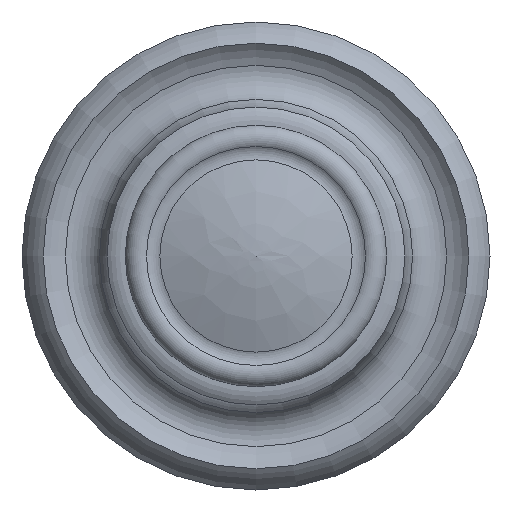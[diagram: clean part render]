
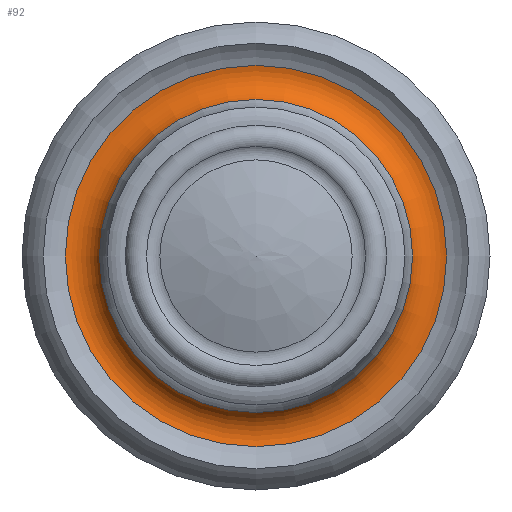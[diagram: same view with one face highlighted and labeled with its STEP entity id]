
A CAD part, front view. The second image highlights one B-rep face of the part: STEP entity #92.
In plain terms, the highlighted toroidal (fillet/blend) face has major radius 12.825 mm and minor radius 2 mm.
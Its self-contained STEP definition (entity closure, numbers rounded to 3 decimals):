
#92 = ADVANCED_FACE( '', ( #147, #148 ), #149, .F. );
#147 = FACE_OUTER_BOUND( '', #241, .T. );
#148 = FACE_OUTER_BOUND( '', #242, .T. );
#149 = TOROIDAL_SURFACE( '', #243, 12.824, 2. );
#241 = EDGE_LOOP( '', ( #332 ) );
#242 = EDGE_LOOP( '', ( #333 ) );
#243 = AXIS2_PLACEMENT_3D( '', #334, #335, #336 );
#332 = ORIENTED_EDGE( '', *, *, #366, .F. );
#333 = ORIENTED_EDGE( '', *, *, #365, .T. );
#334 = CARTESIAN_POINT( '', ( 0., -22.431, 0. ) );
#335 = DIRECTION( '', ( 0., -1., 0. ) );
#336 = DIRECTION( '', ( 1., 0., 0. ) );
#365 = EDGE_CURVE( '', #400, #400, #401, .T. );
#366 = EDGE_CURVE( '', #402, #402, #403, .T. );
#400 = VERTEX_POINT( '', #438 );
#401 = CIRCLE( '', #439, 13.442 );
#402 = VERTEX_POINT( '', #440 );
#403 = CIRCLE( '', #441, 11.04 );
#438 = CARTESIAN_POINT( '', ( 13.442, -20.529, 0. ) );
#439 = AXIS2_PLACEMENT_3D( '', #492, #493, #494 );
#440 = CARTESIAN_POINT( '', ( 11.04, -21.527, 0. ) );
#441 = AXIS2_PLACEMENT_3D( '', #495, #496, #497 );
#492 = CARTESIAN_POINT( '', ( 0., -20.529, 0. ) );
#493 = DIRECTION( '', ( 0., -1., 0. ) );
#494 = DIRECTION( '', ( 1., 0., 0. ) );
#495 = CARTESIAN_POINT( '', ( 0., -21.527, 0. ) );
#496 = DIRECTION( '', ( 0., -1., 0. ) );
#497 = DIRECTION( '', ( 1., 0., 0. ) );
